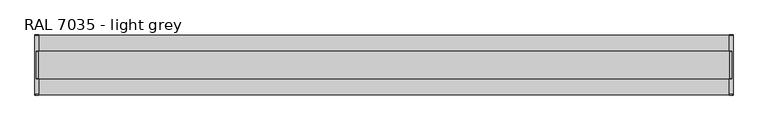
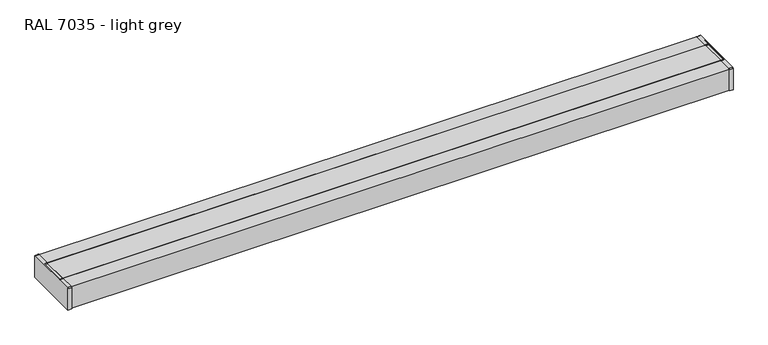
"""IFC4 building model written with IfcOpenShell, lengths in millimetres: proxy geometry, Electrical_Installations_Hager_BRP-Lid-End-Cap-One-Compartment : RAL 7035 - light grey."""

from ifc_helpers import new_model, si_unit, frame, origin, place, context, project, spatial, polyline, circle_curve, outline, extrude, source, transform, mapped, element, save
from ifc_brep_helpers import plane_surface, cylinder_surface, revolved_surface, advanced_brep


def ral_7035_light_grey_e2f385a0(model_context):
    return source(origin(), model_context, "Body", "SolidModel", [
        advanced_brep(
        [(2001.7057953, 86.25, 30.95), (2001.7057953, 83.25, 33.95), (2001.7057953, -83.25, 33.95), (2001.7057953, -86.25, 30.95), (2001.7057953, -86.25, -36.15), (2001.7057953, 86.25, -36.15), (2000.0, 41.3486227, 33.95), (2000.0, 39.7831004, 32.5816692), (2000.0, 38.8540942, 31.8477982), (2000.0, -38.8540942, 31.8477982), (2000.0, -39.8003006, 32.7991169), (2000.0, -40.8849518, 33.95), (2000.0, -85.25, -36.15), (2000.0, -85.25, 30.893231), (2000.0, -83.2258096, 32.9174214), (2000.0, -41.5797272, 32.9174214), (2000.0, -40.6819986, 32.1076317), (2000.0, -38.8211594, 30.840625), (2000.0, 38.8211594, 30.840625), (2000.0, 40.6819986, 32.1076317), (2000.0, 41.5797272, 32.9174214), (2000.0, 83.1823332, 32.9174214), (2000.0, 85.2065236, 30.893231), (2000.0, 85.2065236, -36.15), (1990.7057953, 86.25, -36.15), (1990.7057953, 86.25, 30.9198795), (2000.0, 86.25, 30.9198795), (2000.0, -86.25, 30.95), (1990.7057953, -86.25, 30.9423146), (1990.7057953, -86.25, -36.15), (2000.0, 83.25, 33.95), (1990.7057953, 83.2198795, 33.95), (1990.7057953, 41.3486227, 33.95), (1990.7057953, -40.8849518, 33.95), (1990.7057953, -83.2423146, 33.95), (2000.0, -83.2423146, 33.95), (1990.7057953, 38.8540942, 31.8477982), (1990.7057953, 39.7831004, 32.5816692), (1990.7057953, 85.2065236, -36.15), (1990.7057953, 85.2065236, 30.893231), (1990.7057953, 83.1823332, 32.9174214), (1990.7057953, 41.5797272, 32.9174214), (1990.7057953, 40.6819986, 32.1076317), (1990.7057953, 38.8211594, 30.840625), (1990.7057953, -38.8211594, 30.840625), (1990.7057953, -40.6819986, 32.1076317), (1990.7057953, -41.5797272, 32.9174214), (1990.7057953, -83.2258096, 32.9174214), (1990.7057953, -85.25, 30.893231), (1990.7057953, -85.25, -36.15), (1990.7057953, -39.8003006, 32.7991169), (1990.7057953, -38.8540942, 31.8477982)],
        [
            (0, 1, circle_curve(frame((2001.7057953, 83.25, 30.95), z_axis=(1.0, 0.0, 0.0), x_axis=(0.0, 1.0, 0.0)), 3.0)),
            (1, 2),
            (2, 3, circle_curve(frame((2001.7057953, -83.25, 30.95), z_axis=(1.0, 0.0, 0.0), x_axis=(0.0, 1.0, 0.0)), 3.0)),
            (3, 4),
            (4, 5),
            (5, 0),
            (6, 7, circle_curve(frame((2000.0, 41.5321879, 32.16025), z_axis=(1.0, 0.0, 0.0), x_axis=(0.0, 0.0, -1.0)), 1.799139)),
            (7, 8, circle_curve(frame((2000.0, 38.8540942, 32.8027473), z_axis=(-1.0, 0.0, 0.0), x_axis=(0.0, 0.0, -1.0)), 0.9549491)),
            (8, 9),
            (9, 10, circle_curve(frame((2000.0, -38.8540942, 32.7940183), z_axis=(-1.0, 0.0, 0.0), x_axis=(0.0, 0.0, -1.0)), 0.9462201)),
            (10, 11, circle_curve(frame((2000.0, -41.5602767, 32.2269822), z_axis=(1.0, 0.0, 0.0), x_axis=(0.0, 0.0, -1.0)), 1.8506361)),
            (11, 6),
            (12, 13),
            (13, 14, circle_curve(frame((2000.0, -83.2258096, 30.893231), z_axis=(-1.0, 0.0, 0.0), x_axis=(0.0, 0.0, -1.0)), 2.0241904)),
            (14, 15),
            (15, 16, circle_curve(frame((2000.0, -41.5797272, 32.014918), z_axis=(-1.0, 0.0, 0.0), x_axis=(0.0, 0.0, -1.0)), 0.9025034)),
            (16, 17, circle_curve(frame((2000.0, -38.8211594, 32.8406257), z_axis=(1.0, 0.0, 0.0), x_axis=(0.0, 0.0, -1.0)), 2.0000007)),
            (17, 18),
            (18, 19, circle_curve(frame((2000.0, 38.8211594, 32.8406257), z_axis=(1.0, 0.0, 0.0), x_axis=(0.0, 0.0, -1.0)), 2.0000007)),
            (19, 20, circle_curve(frame((2000.0, 41.5797272, 32.014918), z_axis=(-1.0, 0.0, 0.0), x_axis=(0.0, 0.0, -1.0)), 0.9025034)),
            (20, 21),
            (21, 22, circle_curve(frame((2000.0, 83.1823332, 30.893231), z_axis=(-1.0, 0.0, 0.0), x_axis=(0.0, 0.0, -1.0)), 2.0241904)),
            (22, 23),
            (23, 12),
            (5, 24),
            (24, 25),
            (25, 26),
            (26, 0),
            (3, 27),
            (27, 28),
            (28, 29),
            (29, 4),
            (1, 30),
            (30, 31),
            (31, 32),
            (32, 6),
            (11, 33),
            (33, 34),
            (34, 35),
            (35, 2),
            (36, 37, circle_curve(frame((1990.7057953, 38.8540942, 32.8027473), z_axis=(1.0, 0.0, 0.0), x_axis=(0.0, 0.0, -1.0)), 0.9549491)),
            (37, 32, circle_curve(frame((1990.7057953, 41.5321879, 32.16025), z_axis=(-1.0, 0.0, 0.0), x_axis=(0.0, 0.0, -1.0)), 1.799139)),
            (31, 25, circle_curve(frame((1990.7057953, 83.2198795, 30.9198795), z_axis=(-1.0, 0.0, 0.0), x_axis=(0.0, 0.0, -1.0)), 3.0301205)),
            (24, 38),
            (38, 39),
            (39, 40, circle_curve(frame((1990.7057953, 83.1823332, 30.893231), z_axis=(1.0, 0.0, 0.0), x_axis=(0.0, 0.0, -1.0)), 2.0241904)),
            (40, 41),
            (41, 42, circle_curve(frame((1990.7057953, 41.5797272, 32.014918), z_axis=(1.0, 0.0, 0.0), x_axis=(0.0, 0.0, -1.0)), 0.9025034)),
            (42, 43, circle_curve(frame((1990.7057953, 38.8211594, 32.8406257), z_axis=(-1.0, 0.0, 0.0), x_axis=(0.0, 0.0, -1.0)), 2.0000007)),
            (43, 44),
            (44, 45, circle_curve(frame((1990.7057953, -38.8211594, 32.8406257), z_axis=(-1.0, 0.0, 0.0), x_axis=(0.0, 0.0, -1.0)), 2.0000007)),
            (45, 46, circle_curve(frame((1990.7057953, -41.5797272, 32.014918), z_axis=(1.0, 0.0, 0.0), x_axis=(0.0, 0.0, -1.0)), 0.9025034)),
            (46, 47),
            (47, 48, circle_curve(frame((1990.7057953, -83.2258096, 30.893231), z_axis=(1.0, 0.0, 0.0), x_axis=(0.0, 0.0, -1.0)), 2.0241904)),
            (48, 49),
            (49, 29),
            (28, 34, circle_curve(frame((1990.7057953, -83.2423146, 30.9423146), z_axis=(-1.0, 0.0, 0.0), x_axis=(0.0, 0.0, -1.0)), 3.0076854)),
            (33, 50, circle_curve(frame((1990.7057953, -41.5602767, 32.2269822), z_axis=(-1.0, 0.0, 0.0), x_axis=(0.0, 0.0, -1.0)), 1.8506361)),
            (50, 51, circle_curve(frame((1990.7057953, -38.8540942, 32.7940183), z_axis=(1.0, 0.0, 0.0), x_axis=(0.0, 0.0, -1.0)), 0.9462201)),
            (51, 36),
            (36, 8),
            (7, 37),
            (30, 26, circle_curve(frame((2000.0, 83.2198795, 30.9198795), z_axis=(-1.0, 0.0, 0.0), x_axis=(0.0, 0.0, -1.0)), 3.0301205)),
            (38, 23),
            (22, 39),
            (21, 40),
            (20, 41),
            (19, 42),
            (18, 43),
            (17, 44),
            (16, 45),
            (15, 46),
            (14, 47),
            (13, 48),
            (12, 49),
            (27, 35, circle_curve(frame((2000.0, -83.2423146, 30.9423146), z_axis=(-1.0, 0.0, 0.0), x_axis=(0.0, 0.0, -1.0)), 3.0076854)),
            (10, 50),
            (9, 51),
        ],
        [
            plane_surface(frame((2001.7057953, 86.25, -36.15), z_axis=(1.0, 0.0, 0.0), x_axis=(0.0, 0.0, -1.0))),
            plane_surface(frame((2000.0, 86.25, -36.15), z_axis=(-1.0, 0.0, 0.0), x_axis=(0.0, 0.0, 1.0))),
            plane_surface(frame((2001.7057953, 86.25, 30.95), z_axis=(0.0, 1.0, 0.0), x_axis=(-1.0, 0.0, 0.0))),
            plane_surface(frame((2001.7057953, -86.25, -36.15), z_axis=(0.0, -1.0, 0.0), x_axis=(-1.0, 0.0, 0.0))),
            plane_surface(frame((2001.7057953, -83.25, 33.95), z_axis=(0.0, 0.0, 1.0), x_axis=(-1.0, 0.0, 0.0))),
            plane_surface(frame((1990.7057953, -32.5, -0.05), z_axis=(-1.0, 0.0, 0.0), x_axis=(0.0, 0.0, -1.0))),
            revolved_surface(polyline([(1990.7057953, 38.8540942, 31.8477982), (2000.0, 38.8540942, 31.8477982)]), (2000.0, 38.8540942, 32.8027473), (-1.0, 0.0, 0.0)),
            cylinder_surface(frame((2000.0, 41.5321879, 32.16025), z_axis=(1.0, 0.0, 0.0), x_axis=(0.0, 0.0, -1.0)), 1.799139),
            cylinder_surface(frame((2000.0, 83.2198795, 30.9198795), z_axis=(1.0, 0.0, 0.0), x_axis=(0.0, 0.0, -1.0)), 3.0301205),
            plane_surface(frame((2000.0, 85.2065236, -36.15), z_axis=(0.0, -1.0, 0.0), x_axis=(-1.0, 0.0, 0.0))),
            revolved_surface(polyline([(1990.7057953, 83.1823332, 28.869040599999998), (2000.0, 83.1823332, 28.869040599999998)]), (2000.0, 83.1823332, 30.893231), (-1.0, 0.0, 0.0)),
            plane_surface(frame((2000.0, 83.1823332, 32.9174214), z_axis=(0.0, 0.0, -1.0), x_axis=(-1.0, 0.0, 0.0))),
            revolved_surface(polyline([(1990.7057953, 41.5797272, 31.1124146), (2000.0, 41.5797272, 31.1124146)]), (2000.0, 41.5797272, 32.014918), (-1.0, 0.0, 0.0)),
            cylinder_surface(frame((2000.0, 38.8211594, 32.8406257), z_axis=(1.0, 0.0, 0.0), x_axis=(0.0, 0.0, -1.0)), 2.0000007),
            plane_surface(frame((2000.0, 38.8211594, 30.840625), z_axis=(0.0, 0.0, -1.0), x_axis=(-1.0, 0.0, 0.0))),
            cylinder_surface(frame((2000.0, -38.8211594, 32.8406257), z_axis=(1.0, 0.0, 0.0), x_axis=(0.0, 0.0, -1.0)), 2.0000007),
            revolved_surface(polyline([(1990.7057953, -41.5797272, 31.1124146), (2000.0, -41.5797272, 31.1124146)]), (2000.0, -41.5797272, 32.014918), (-1.0, 0.0, 0.0)),
            plane_surface(frame((2000.0, -41.5797272, 32.9174214), z_axis=(0.0, 0.0, -1.0), x_axis=(-1.0, 0.0, 0.0))),
            revolved_surface(polyline([(1990.7057953, -83.2258096, 28.869040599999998), (2000.0, -83.2258096, 28.869040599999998)]), (2000.0, -83.2258096, 30.893231), (-1.0, 0.0, 0.0)),
            plane_surface(frame((2000.0, -85.25, 30.893231), z_axis=(0.0, 1.0, 0.0), x_axis=(-1.0, 0.0, 0.0))),
            cylinder_surface(frame((2000.0, -83.2423146, 30.9423146), z_axis=(1.0, 0.0, 0.0), x_axis=(0.0, 0.0, -1.0)), 3.0076854),
            cylinder_surface(frame((2000.0, -41.5602767, 32.2269822), z_axis=(1.0, 0.0, 0.0), x_axis=(0.0, 0.0, -1.0)), 1.8506361),
            revolved_surface(polyline([(1990.7057953, -38.8540942, 31.847798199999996), (2000.0, -38.8540942, 31.847798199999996)]), (2000.0, -38.8540942, 32.7940183), (-1.0, 0.0, 0.0)),
            plane_surface(frame((2000.0, -38.8540942, 31.8477982), z_axis=(0.0, 0.0, 1.0), x_axis=(-1.0, 0.0, 0.0))),
            cylinder_surface(frame((2000.0, -83.25, 30.95), z_axis=(1.0, 0.0, 0.0), x_axis=(0.0, 1.0, 0.0)), 3.0),
            cylinder_surface(frame((2000.0, 83.25, 30.95), z_axis=(1.0, 0.0, 0.0), x_axis=(0.0, 1.0, 0.0)), 3.0),
            plane_surface(frame((2001.7057953, 86.25, -36.15), z_axis=(0.0, 0.0, -1.0), x_axis=(-1.0, 0.0, 0.0))),
        ],
        [
            (0, [[1, 2, 3, 4, 5, 6]]),
            (1, [[7, 8, 9, 10, 11, 12]]),
            (1, [[13, 14, 15, 16, 17, 18, 19, 20, 21, 22, 23, 24]]),
            (2, [[25, 26, 27, 28, -6]]),
            (3, [[29, 30, 31, 32, -4]]),
            (4, [[33, 34, 35, 36, -12, 37, 38, 39, 40, -2]]),
            (5, [[41, 42, -35, 43, -26, 44, 45, 46, 47, 48, 49, 50, 51, 52, 53, 54, 55, 56, -31, 57, -38, 58, 59, 60]]),
            (6, [[61, -8, 62, -41]]),
            (7, [[-62, -7, -36, -42]]),
            (8, [[-34, 63, -27, -43]]),
            (9, [[64, -23, 65, -45]]),
            (10, [[-65, -22, 66, -46]]),
            (11, [[-66, -21, 67, -47]]),
            (12, [[-67, -20, 68, -48]]),
            (13, [[-68, -19, 69, -49]]),
            (14, [[-69, -18, 70, -50]]),
            (15, [[-70, -17, 71, -51]]),
            (16, [[-71, -16, 72, -52]]),
            (17, [[-72, -15, 73, -53]]),
            (18, [[-73, -14, 74, -54]]),
            (19, [[-74, -13, 75, -55]]),
            (20, [[-30, 76, -39, -57]]),
            (21, [[-37, -11, 77, -58]]),
            (22, [[-77, -10, 78, -59]]),
            (23, [[-78, -9, -61, -60]]),
            (24, [[-40, -76, -29, -3]]),
            (25, [[-28, -63, -33, -1]]),
            (26, [[-56, -75, -24, -64, -44, -25, -5, -32]]),
        ],
    ),
        advanced_brep(
        [(-1.7057953, 86.25, 30.95), (-1.7057953, 86.25, -36.15), (-1.7057953, -86.25, -36.15), (-1.7057953, -86.25, 30.95), (-1.7057953, -83.25, 33.95), (-1.7057953, 83.25, 33.95), (0.0, 41.3486227, 33.95), (0.0, -40.8849518, 33.95), (0.0, -39.8003006, 32.7991169), (0.0, -38.8540942, 31.8477982), (0.0, 38.8540942, 31.8477982), (0.0, 39.7831004, 32.5816692), (0.0, -85.25, -36.15), (0.0, 85.2065236, -36.15), (0.0, 85.2065236, 30.893231), (0.0, 83.1823332, 32.9174214), (0.0, 41.5797272, 32.9174214), (0.0, 40.6819986, 32.1076317), (0.0, 38.8211594, 30.840625), (0.0, -38.8211594, 30.840625), (0.0, -40.6819986, 32.1076317), (0.0, -41.5797272, 32.9174214), (0.0, -83.2258096, 32.9174214), (0.0, -85.25, 30.893231), (0.0, 86.25, 30.95), (9.2942047, 86.25, 30.9198795), (9.2942047, 86.25, -36.15), (9.2942047, -86.25, -36.15), (9.2942047, -86.25, 30.9423146), (0.0, -86.25, 30.9423146), (0.0, -83.25, 33.95), (9.2942047, -83.2423146, 33.95), (9.2942047, -40.8849518, 33.95), (9.2942047, 41.3486227, 33.95), (9.2942047, 83.2198795, 33.95), (0.0, 83.2198795, 33.95), (9.2942047, 38.8540942, 31.8477982), (9.2942047, -38.8540942, 31.8477982), (9.2942047, -39.8003006, 32.7991169), (9.2942047, -85.25, -36.15), (9.2942047, -85.25, 30.893231), (9.2942047, -83.2258096, 32.9174214), (9.2942047, -41.5797272, 32.9174214), (9.2942047, -40.6819986, 32.1076317), (9.2942047, -38.8211594, 30.840625), (9.2942047, 38.8211594, 30.840625), (9.2942047, 40.6819986, 32.1076317), (9.2942047, 41.5797272, 32.9174214), (9.2942047, 83.1823332, 32.9174214), (9.2942047, 85.2065236, 30.893231), (9.2942047, 85.2065236, -36.15), (9.2942047, 39.7831004, 32.5816692)],
        [
            (0, 1),
            (1, 2),
            (2, 3),
            (3, 4, circle_curve(frame((-1.7057953, -83.25, 30.95), z_axis=(-1.0, 0.0, 0.0), x_axis=(0.0, 1.0, 0.0)), 3.0)),
            (4, 5),
            (5, 0, circle_curve(frame((-1.7057953, 83.25, 30.95), z_axis=(-1.0, 0.0, 0.0), x_axis=(0.0, 1.0, 0.0)), 3.0)),
            (6, 7),
            (7, 8, circle_curve(frame((0.0, -41.5602767, 32.2269822), z_axis=(-1.0, 0.0, 0.0), x_axis=(0.0, 0.0, -1.0)), 1.8506361)),
            (8, 9, circle_curve(frame((0.0, -38.8540942, 32.7940183), z_axis=(1.0, 0.0, 0.0), x_axis=(0.0, 0.0, -1.0)), 0.9462201)),
            (9, 10),
            (10, 11, circle_curve(frame((0.0, 38.8540942, 32.8027473), z_axis=(1.0, 0.0, 0.0), x_axis=(0.0, 0.0, -1.0)), 0.9549491)),
            (11, 6, circle_curve(frame((0.0, 41.5321879, 32.16025), z_axis=(-1.0, 0.0, 0.0), x_axis=(0.0, 0.0, -1.0)), 1.799139)),
            (12, 13),
            (13, 14),
            (14, 15, circle_curve(frame((0.0, 83.1823332, 30.893231), z_axis=(1.0, 0.0, 0.0), x_axis=(0.0, 0.0, -1.0)), 2.0241904)),
            (15, 16),
            (16, 17, circle_curve(frame((0.0, 41.5797272, 32.014918), z_axis=(1.0, 0.0, 0.0), x_axis=(0.0, 0.0, -1.0)), 0.9025034)),
            (17, 18, circle_curve(frame((0.0, 38.8211594, 32.8406257), z_axis=(-1.0, 0.0, 0.0), x_axis=(0.0, 0.0, -1.0)), 2.0000007)),
            (18, 19),
            (19, 20, circle_curve(frame((0.0, -38.8211594, 32.8406257), z_axis=(-1.0, 0.0, 0.0), x_axis=(0.0, 0.0, -1.0)), 2.0000007)),
            (20, 21, circle_curve(frame((0.0, -41.5797272, 32.014918), z_axis=(1.0, 0.0, 0.0), x_axis=(0.0, 0.0, -1.0)), 0.9025034)),
            (21, 22),
            (22, 23, circle_curve(frame((0.0, -83.2258096, 30.893231), z_axis=(1.0, 0.0, 0.0), x_axis=(0.0, 0.0, -1.0)), 2.0241904)),
            (23, 12),
            (0, 24),
            (24, 25),
            (25, 26),
            (26, 1),
            (2, 27),
            (27, 28),
            (28, 29),
            (29, 3),
            (4, 30),
            (30, 31),
            (31, 32),
            (32, 7),
            (6, 33),
            (33, 34),
            (34, 35),
            (35, 5),
            (36, 37),
            (37, 38, circle_curve(frame((9.2942047, -38.8540942, 32.7940183), z_axis=(-1.0, 0.0, 0.0), x_axis=(0.0, 0.0, -1.0)), 0.9462201)),
            (38, 32, circle_curve(frame((9.2942047, -41.5602767, 32.2269822), z_axis=(1.0, 0.0, 0.0), x_axis=(0.0, 0.0, -1.0)), 1.8506361)),
            (31, 28, circle_curve(frame((9.2942047, -83.2423146, 30.9423146), z_axis=(1.0, 0.0, 0.0), x_axis=(0.0, 0.0, -1.0)), 3.0076854)),
            (27, 39),
            (39, 40),
            (40, 41, circle_curve(frame((9.2942047, -83.2258096, 30.893231), z_axis=(-1.0, 0.0, 0.0), x_axis=(0.0, 0.0, -1.0)), 2.0241904)),
            (41, 42),
            (42, 43, circle_curve(frame((9.2942047, -41.5797272, 32.014918), z_axis=(-1.0, 0.0, 0.0), x_axis=(0.0, 0.0, -1.0)), 0.9025034)),
            (43, 44, circle_curve(frame((9.2942047, -38.8211594, 32.8406257), z_axis=(1.0, 0.0, 0.0), x_axis=(0.0, 0.0, -1.0)), 2.0000007)),
            (44, 45),
            (45, 46, circle_curve(frame((9.2942047, 38.8211594, 32.8406257), z_axis=(1.0, 0.0, 0.0), x_axis=(0.0, 0.0, -1.0)), 2.0000007)),
            (46, 47, circle_curve(frame((9.2942047, 41.5797272, 32.014918), z_axis=(-1.0, 0.0, 0.0), x_axis=(0.0, 0.0, -1.0)), 0.9025034)),
            (47, 48),
            (48, 49, circle_curve(frame((9.2942047, 83.1823332, 30.893231), z_axis=(-1.0, 0.0, 0.0), x_axis=(0.0, 0.0, -1.0)), 2.0241904)),
            (49, 50),
            (50, 26),
            (25, 34, circle_curve(frame((9.2942047, 83.2198795, 30.9198795), z_axis=(1.0, 0.0, 0.0), x_axis=(0.0, 0.0, -1.0)), 3.0301205)),
            (33, 51, circle_curve(frame((9.2942047, 41.5321879, 32.16025), z_axis=(1.0, 0.0, 0.0), x_axis=(0.0, 0.0, -1.0)), 1.799139)),
            (51, 36, circle_curve(frame((9.2942047, 38.8540942, 32.8027473), z_axis=(-1.0, 0.0, 0.0), x_axis=(0.0, 0.0, -1.0)), 0.9549491)),
            (51, 11),
            (10, 36),
            (24, 35, circle_curve(frame((0.0, 83.2198795, 30.9198795), z_axis=(1.0, 0.0, 0.0), x_axis=(0.0, 0.0, -1.0)), 3.0301205)),
            (49, 14),
            (13, 50),
            (48, 15),
            (47, 16),
            (46, 17),
            (45, 18),
            (44, 19),
            (43, 20),
            (42, 21),
            (41, 22),
            (40, 23),
            (39, 12),
            (30, 29, circle_curve(frame((0.0, -83.2423146, 30.9423146), z_axis=(1.0, 0.0, 0.0), x_axis=(0.0, 0.0, -1.0)), 3.0076854)),
            (38, 8),
            (37, 9),
        ],
        [
            plane_surface(frame((-1.7057953, 86.25, -36.15), z_axis=(-1.0, 0.0, 0.0), x_axis=(0.0, 0.0, -1.0))),
            plane_surface(frame((0.0, 86.25, -36.15), z_axis=(1.0, 0.0, 0.0), x_axis=(0.0, 0.0, 1.0))),
            plane_surface(frame((-1.7057953, 86.25, 30.95), z_axis=(0.0, 1.0, 0.0), x_axis=(1.0, 0.0, 0.0))),
            plane_surface(frame((-1.7057953, -86.25, -36.15), z_axis=(0.0, -1.0, 0.0), x_axis=(1.0, 0.0, 0.0))),
            plane_surface(frame((-1.7057953, -83.25, 33.95), z_axis=(0.0, 0.0, 1.0), x_axis=(1.0, 0.0, 0.0))),
            plane_surface(frame((9.2942047, -32.5, -0.05), z_axis=(1.0, 0.0, 0.0), x_axis=(0.0, 0.0, -1.0))),
            revolved_surface(polyline([(9.2942047, 38.8540942, 31.8477982), (0.0, 38.8540942, 31.8477982)]), (0.0, 38.8540942, 32.8027473), (1.0, 0.0, 0.0)),
            cylinder_surface(frame((0.0, 41.5321879, 32.16025), z_axis=(-1.0, 0.0, 0.0), x_axis=(0.0, 0.0, -1.0)), 1.799139),
            cylinder_surface(frame((0.0, 83.2198795, 30.9198795), z_axis=(-1.0, 0.0, 0.0), x_axis=(0.0, 0.0, -1.0)), 3.0301205),
            plane_surface(frame((0.0, 85.2065236, -36.15), z_axis=(0.0, -1.0, 0.0), x_axis=(1.0, 0.0, 0.0))),
            revolved_surface(polyline([(9.2942047, 83.1823332, 28.869040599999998), (0.0, 83.1823332, 28.869040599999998)]), (0.0, 83.1823332, 30.893231), (1.0, 0.0, 0.0)),
            plane_surface(frame((0.0, 83.1823332, 32.9174214), z_axis=(0.0, 0.0, -1.0), x_axis=(1.0, 0.0, 0.0))),
            revolved_surface(polyline([(9.2942047, 41.5797272, 31.1124146), (0.0, 41.5797272, 31.1124146)]), (0.0, 41.5797272, 32.014918), (1.0, 0.0, 0.0)),
            cylinder_surface(frame((0.0, 38.8211594, 32.8406257), z_axis=(-1.0, 0.0, 0.0), x_axis=(0.0, 0.0, -1.0)), 2.0000007),
            plane_surface(frame((0.0, 38.8211594, 30.840625), z_axis=(0.0, 0.0, -1.0), x_axis=(1.0, 0.0, 0.0))),
            cylinder_surface(frame((0.0, -38.8211594, 32.8406257), z_axis=(-1.0, 0.0, 0.0), x_axis=(0.0, 0.0, -1.0)), 2.0000007),
            revolved_surface(polyline([(9.2942047, -41.5797272, 31.1124146), (0.0, -41.5797272, 31.1124146)]), (0.0, -41.5797272, 32.014918), (1.0, 0.0, 0.0)),
            plane_surface(frame((0.0, -41.5797272, 32.9174214), z_axis=(0.0, 0.0, -1.0), x_axis=(1.0, 0.0, 0.0))),
            revolved_surface(polyline([(9.2942047, -83.2258096, 28.869040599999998), (0.0, -83.2258096, 28.869040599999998)]), (0.0, -83.2258096, 30.893231), (1.0, 0.0, 0.0)),
            plane_surface(frame((0.0, -85.25, 30.893231), z_axis=(0.0, 1.0, 0.0), x_axis=(1.0, 0.0, 0.0))),
            cylinder_surface(frame((0.0, -83.2423146, 30.9423146), z_axis=(-1.0, 0.0, 0.0), x_axis=(0.0, 0.0, -1.0)), 3.0076854),
            cylinder_surface(frame((0.0, -41.5602767, 32.2269822), z_axis=(-1.0, 0.0, 0.0), x_axis=(0.0, 0.0, -1.0)), 1.8506361),
            revolved_surface(polyline([(9.2942047, -38.8540942, 31.847798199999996), (0.0, -38.8540942, 31.847798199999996)]), (0.0, -38.8540942, 32.7940183), (1.0, 0.0, 0.0)),
            plane_surface(frame((0.0, -38.8540942, 31.8477982), z_axis=(0.0, 0.0, 1.0), x_axis=(1.0, 0.0, 0.0))),
            cylinder_surface(frame((0.0, -83.25, 30.95), z_axis=(-1.0, 0.0, 0.0), x_axis=(0.0, 1.0, 0.0)), 3.0),
            cylinder_surface(frame((0.0, 83.25, 30.95), z_axis=(-1.0, 0.0, 0.0), x_axis=(0.0, 1.0, 0.0)), 3.0),
            plane_surface(frame((-1.7057953, 86.25, -36.15), z_axis=(0.0, 0.0, -1.0), x_axis=(1.0, 0.0, 0.0))),
        ],
        [
            (0, [[1, 2, 3, 4, 5, 6]]),
            (1, [[7, 8, 9, 10, 11, 12]]),
            (1, [[13, 14, 15, 16, 17, 18, 19, 20, 21, 22, 23, 24]]),
            (2, [[-1, 25, 26, 27, 28]]),
            (3, [[-3, 29, 30, 31, 32]]),
            (4, [[-5, 33, 34, 35, 36, -7, 37, 38, 39, 40]]),
            (5, [[41, 42, 43, -35, 44, -30, 45, 46, 47, 48, 49, 50, 51, 52, 53, 54, 55, 56, 57, -27, 58, -38, 59, 60]]),
            (6, [[-60, 61, -11, 62]]),
            (7, [[-59, -37, -12, -61]]),
            (8, [[-58, -26, 63, -39]]),
            (9, [[-56, 64, -14, 65]]),
            (10, [[-55, 66, -15, -64]]),
            (11, [[-54, 67, -16, -66]]),
            (12, [[-53, 68, -17, -67]]),
            (13, [[-52, 69, -18, -68]]),
            (14, [[-51, 70, -19, -69]]),
            (15, [[-50, 71, -20, -70]]),
            (16, [[-49, 72, -21, -71]]),
            (17, [[-48, 73, -22, -72]]),
            (18, [[-47, 74, -23, -73]]),
            (19, [[-46, 75, -24, -74]]),
            (20, [[-44, -34, 76, -31]]),
            (21, [[-43, 77, -8, -36]]),
            (22, [[-42, 78, -9, -77]]),
            (23, [[-41, -62, -10, -78]]),
            (24, [[-4, -32, -76, -33]]),
            (25, [[-6, -40, -63, -25]]),
            (26, [[-29, -2, -28, -57, -65, -13, -75, -45]]),
        ],
    ),
        extrude(outline(polyline([(40.0, 18.6492509), (37.5361498, 18.6492509), (37.5361498, 30.0), (-37.5361498, 30.0), (-37.5361498, 18.6492509), (-40.0, 18.6492509), (-40.0, 33.0), (40.0, 33.0), (40.0, 18.6492509)])), frame((9.0, 0.0, 0.0), z_axis=(1.0, 0.0, 0.0), x_axis=(0.0, 1.0, 0.0)), (0.0, 0.0, 1.0), 1982.0),
        extrude(outline(polyline([(85.0, 33.0), (85.0, -35.0582587), (-85.0, -35.0582587), (-85.0, 33.0), (-40.5, 33.0), (-40.5, 16.0), (-36.578125, 16.0), (-36.578125, 24.0415809), (-35.3, 24.0415809), (-35.3, 14.0), (-42.5, 14.0), (-42.5, 30.0), (-82.0, 30.0), (-82.0, -32.0582587), (82.0, -32.0582587), (82.0, 30.0), (42.5, 30.0), (42.5, 14.0), (35.221875, 14.0), (35.221875, 24.0415809), (36.5, 24.0415809), (36.5, 16.0), (40.5, 16.0), (40.5, 33.0), (85.0, 33.0)])), frame((0.0, 0.0, 0.0), z_axis=(1.0, 0.0, 0.0), x_axis=(0.0, 1.0, 0.0)), (0.0, 0.0, 1.0), 2000.0),
    ])


if __name__ == "__main__":
    model = new_model("IFC4")
    model_context = context("Model", 3, world=origin())
    ifc_project = project(units=[si_unit("LENGTHUNIT", "METRE", prefix="MILLI")], contexts=[model_context])
    site = spatial("IfcSite", under=ifc_project)
    building = spatial("IfcBuilding", under=site)
    placement = place(None, origin())
    ral_7035_light_grey_shape = ral_7035_light_grey_e2f385a0(model_context)
    element("IfcBuildingElementProxy", 1, Name="Electrical_Installations_Hager_BRP-Lid-End-Cap-One-Compartment : RAL 7035 - light grey", ObjectType="Electrical_Installations_Hager_BRP-Lid-End-Cap-One-Compartment : RAL 7035 - light grey", at=placement, inside=building, context=model_context, shape_type="MappedRepresentation", body=[
        mapped(ral_7035_light_grey_shape, transform((0.0, 0.0, 0.0), x_axis=(1.0, 0.0, 0.0), y_axis=(0.0, 1.0, 0.0), z_axis=(0.0, 0.0, 1.0))),
    ])
    save(model, "model.ifc")
